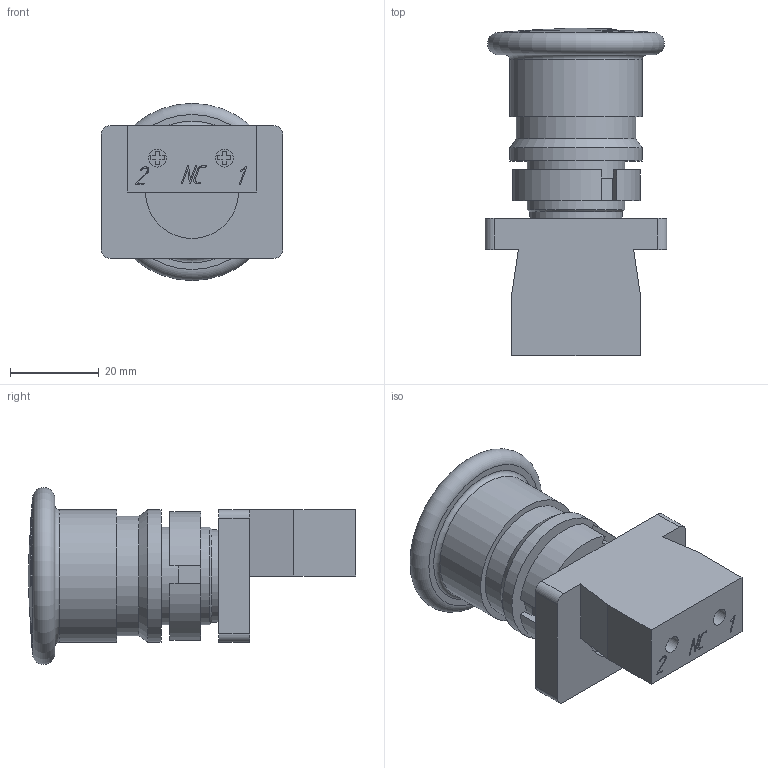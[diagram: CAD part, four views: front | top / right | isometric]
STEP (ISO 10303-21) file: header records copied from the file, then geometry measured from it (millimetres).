
FILE_DESCRIPTION(('STEP AP214'), '1');
FILE_NAME('扱闀罻 PLBT-02', '', ('UNSPECIFIED'), ('UNSPECIFIED'), 'ASCON STEP Converter 1.6', 'ASCON Math Kernel', '');
FILE_SCHEMA(('AUTOMOTIVE_DESIGN { 1 0 10303 214 3 1 1}'));
Length unit declared in the file: millimetre
Assembly tree (3 placements, depth 2):
  (unnamed)
    (unnamed)
    (unnamed)
    (unnamed)
Bounding box: 41 x 74 x 40 mm (x, y, z)
Volume: 46266.8 mm3; surface area: 14275.1 mm2
Topology: 5 solids, 5 shells, 273 faces, 749 edges, 498 vertices
Faces by surface type: plane 145, cylinder 121, torus 5, cone 2
Full cylindrical faces by diameter (mm): 4 x4, 20.917 x1, 21 x2, 22 x1, 27 x1, 30 x2
Entity records: 11225 total; most frequent: CARTESIAN_POINT 1797, DIRECTION 1512, ORIENTED_EDGE 1446, EDGE_CURVE 723, AXIS2_PLACEMENT_3D 526, VERTEX_POINT 490, LINE 460, VECTOR 460
